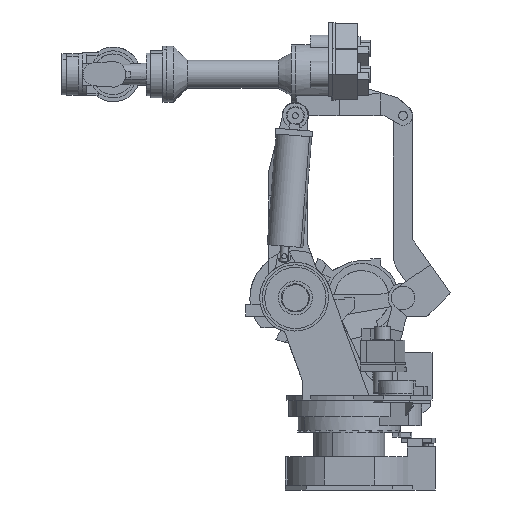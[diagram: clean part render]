
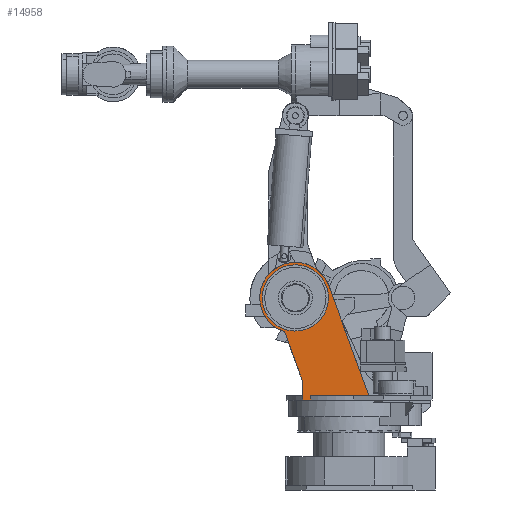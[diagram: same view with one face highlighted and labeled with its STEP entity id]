
A CAD part, left-side view. The second image highlights one B-rep face of the part: STEP entity #14958.
In plain terms, the highlighted planar face has unit normal (1, 0, 0).
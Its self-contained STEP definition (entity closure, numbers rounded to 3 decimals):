
#2229=CARTESIAN_POINT('Vertex',(-300.,280.,-2.)) ;
#2232=CARTESIAN_POINT('Line Origine',(-300.,256.619,-2.)) ;
#2236=CARTESIAN_POINT('Vertex',(-300.,233.238,-2.)) ;
#2430=CARTESIAN_POINT('Vertex',(-300.,280.,107.)) ;
#2433=CARTESIAN_POINT('Line Origine',(-300.,280.,66.)) ;
#2437=CARTESIAN_POINT('Vertex',(-300.,280.,25.)) ;
#2440=CARTESIAN_POINT('Line Origine',(-300.,280.,11.5)) ;
#3090=CARTESIAN_POINT('Vertex',(-300.,390.345,410.171)) ;
#3095=CARTESIAN_POINT('Line Origine',(-300.,335.173,258.585)) ;
#3724=CARTESIAN_POINT('Vertex',(-300.,122.966,688.534)) ;
#3727=CARTESIAN_POINT('Axis2P3D Location',(-300.,325.,615.)) ;
#4350=CARTESIAN_POINT('Vertex',(-300.,-118.541,25.)) ;
#4353=CARTESIAN_POINT('Line Origine',(-300.,2.213,356.767)) ;
#13060=CARTESIAN_POINT('Vertex',(-300.,420.885,790.516)) ;
#13063=CARTESIAN_POINT('Axis2P3D Location',(-300.,325.,615.)) ;
#13067=CARTESIAN_POINT('Vertex',(-300.,229.115,439.483)) ;
#13082=CARTESIAN_POINT('Axis2P3D Location',(-300.,325.,615.)) ;
#14919=CARTESIAN_POINT('Vertex',(-300.,233.238,25.)) ;
#14922=CARTESIAN_POINT('Line Origine',(-300.,233.238,11.5)) ;
#14934=CARTESIAN_POINT('Axis2P3D Location',(-300.,233.238,-5.)) ;
#14939=CARTESIAN_POINT('Line Origine',(-300.,57.349,25.)) ;
#2233=DIRECTION('Vector Direction',(0.,1.,0.)) ;
#2434=DIRECTION('Vector Direction',(0.,0.,1.)) ;
#2441=DIRECTION('Vector Direction',(0.,0.,1.)) ;
#3096=DIRECTION('Vector Direction',(0.,0.342,0.94)) ;
#3728=DIRECTION('Axis2P3D Direction',(-1.,0.,0.)) ;
#4354=DIRECTION('Vector Direction',(0.,0.342,0.94)) ;
#13064=DIRECTION('Axis2P3D Direction',(-1.,0.,0.)) ;
#13083=DIRECTION('Axis2P3D Direction',(-1.,0.,0.)) ;
#14923=DIRECTION('Vector Direction',(0.,0.,1.)) ;
#14935=DIRECTION('Axis2P3D Direction',(1.,0.,0.)) ;
#14936=DIRECTION('Axis2P3D XDirection',(0.,1.,0.)) ;
#14940=DIRECTION('Vector Direction',(0.,1.,0.)) ;
#3729=AXIS2_PLACEMENT_3D('Circle Axis2P3D',#3727,#3728,$) ;
#13065=AXIS2_PLACEMENT_3D('Circle Axis2P3D',#13063,#13064,$) ;
#13084=AXIS2_PLACEMENT_3D('Circle Axis2P3D',#13082,#13083,$) ;
#14937=AXIS2_PLACEMENT_3D('Plane Axis2P3D',#14934,#14935,#14936) ;
#14945=ORIENTED_EDGE('',*,*,#2439,.F.) ;
#14946=ORIENTED_EDGE('',*,*,#3099,.F.) ;
#14947=ORIENTED_EDGE('',*,*,#3731,.F.) ;
#14948=ORIENTED_EDGE('',*,*,#4357,.F.) ;
#14949=ORIENTED_EDGE('',*,*,#14943,.F.) ;
#14950=ORIENTED_EDGE('',*,*,#14926,.F.) ;
#14951=ORIENTED_EDGE('',*,*,#2238,.F.) ;
#14952=ORIENTED_EDGE('',*,*,#2444,.T.) ;
#14955=ORIENTED_EDGE('',*,*,#13069,.T.) ;
#14956=ORIENTED_EDGE('',*,*,#13086,.T.) ;
#14957=FACE_BOUND('',#14954,.T.) ;
#2234=VECTOR('Line Direction',#2233,1.) ;
#2435=VECTOR('Line Direction',#2434,1.) ;
#2442=VECTOR('Line Direction',#2441,1.) ;
#3097=VECTOR('Line Direction',#3096,1.) ;
#4355=VECTOR('Line Direction',#4354,1.) ;
#14924=VECTOR('Line Direction',#14923,1.) ;
#14941=VECTOR('Line Direction',#14940,1.) ;
#14958=ADVANCED_FACE('\X2\FF7BFF70FF8CFF6AFF7D\X0\.1',(#14953,#14957),#14938,.T.) ;
#3730=CIRCLE('generated circle',#3729,215.) ;
#13066=CIRCLE('generated circle',#13065,200.) ;
#13085=CIRCLE('generated circle',#13084,200.) ;
#2238=EDGE_CURVE('',#2230,#2237,#2235,.F.) ;
#2439=EDGE_CURVE('',#2431,#2438,#2436,.F.) ;
#2444=EDGE_CURVE('',#2230,#2438,#2443,.T.) ;
#3099=EDGE_CURVE('',#3091,#2431,#3098,.F.) ;
#3731=EDGE_CURVE('',#3725,#3091,#3730,.T.) ;
#4357=EDGE_CURVE('',#4351,#3725,#4356,.T.) ;
#13069=EDGE_CURVE('',#13068,#13061,#13066,.T.) ;
#13086=EDGE_CURVE('',#13061,#13068,#13085,.T.) ;
#14926=EDGE_CURVE('',#2237,#14920,#14925,.T.) ;
#14943=EDGE_CURVE('',#14920,#4351,#14942,.F.) ;
#14944=EDGE_LOOP('',(#14945,#14946,#14947,#14948,#14949,#14950,#14951,#14952)) ;
#14954=EDGE_LOOP('',(#14955,#14956)) ;
#14953=FACE_OUTER_BOUND('',#14944,.T.) ;
#2235=LINE('Line',#2232,#2234) ;
#2436=LINE('Line',#2433,#2435) ;
#2443=LINE('Line',#2440,#2442) ;
#3098=LINE('Line',#3095,#3097) ;
#4356=LINE('Line',#4353,#4355) ;
#14925=LINE('Line',#14922,#14924) ;
#14942=LINE('Line',#14939,#14941) ;
#14938=PLANE('',#14937) ;
#2230=VERTEX_POINT('',#2229) ;
#2237=VERTEX_POINT('',#2236) ;
#2431=VERTEX_POINT('',#2430) ;
#2438=VERTEX_POINT('',#2437) ;
#3091=VERTEX_POINT('',#3090) ;
#3725=VERTEX_POINT('',#3724) ;
#4351=VERTEX_POINT('',#4350) ;
#13061=VERTEX_POINT('',#13060) ;
#13068=VERTEX_POINT('',#13067) ;
#14920=VERTEX_POINT('',#14919) ;
